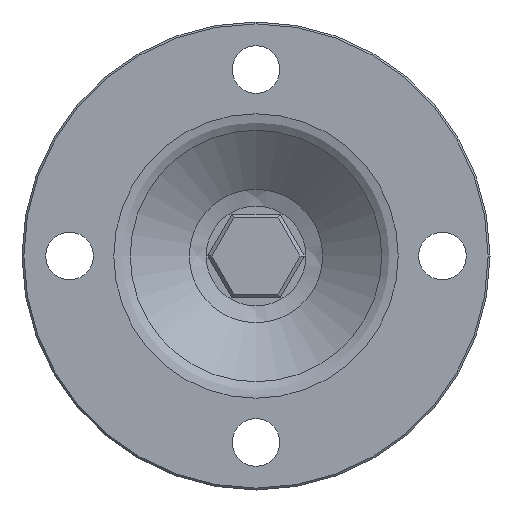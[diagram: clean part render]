
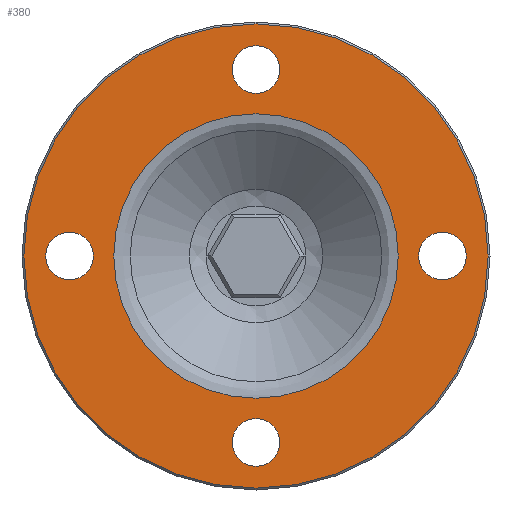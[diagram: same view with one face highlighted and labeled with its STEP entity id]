
A CAD part, left-side view. The second image highlights one B-rep face of the part: STEP entity #380.
In plain terms, the highlighted planar face has unit normal (-1, 0, 0).
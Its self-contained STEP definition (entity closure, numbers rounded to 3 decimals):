
#240=CARTESIAN_POINT('',(-445.277,-488.109,-43.814));
#241=VERTEX_POINT('',#240);
#249=CARTESIAN_POINT('',(-445.277,-488.109,30.932));
#250=VERTEX_POINT('',#249);
#251=CARTESIAN_POINT('',(-445.277,-488.109,-6.441));
#252=DIRECTION('',(-1.0,0.0,0.0));
#253=DIRECTION('',(0.0,0.0,-1.0));
#254=AXIS2_PLACEMENT_3D('',#251,#252,#253);
#255=CIRCLE('',#254,37.373);
#256=EDGE_CURVE('',#241,#250,#255,.T.);
#258=CARTESIAN_POINT('',(-445.277,-488.109,-6.441));
#259=DIRECTION('',(-1.0,0.0,0.0));
#260=DIRECTION('',(0.0,0.0,-1.0));
#261=AXIS2_PLACEMENT_3D('',#258,#259,#260);
#262=CIRCLE('',#261,37.373);
#263=EDGE_CURVE('',#250,#241,#262,.T.);
#271=CARTESIAN_POINT('',(-445.277,-366.109,115.559));
#272=DIRECTION('',(1.0,0.0,0.0));
#273=DIRECTION('',(0.0,-1.0,0.0));
#274=AXIS2_PLACEMENT_3D('',#271,#272,#273);
#275=PLANE('',#274);
#276=CARTESIAN_POINT('',(-445.277,-488.109,-67.441));
#277=VERTEX_POINT('',#276);
#278=CARTESIAN_POINT('',(-445.277,-488.109,54.559));
#279=VERTEX_POINT('',#278);
#280=CARTESIAN_POINT('',(-445.277,-488.109,-6.441));
#281=DIRECTION('',(-1.0,0.0,0.0));
#282=DIRECTION('',(0.0,0.0,-1.0));
#283=AXIS2_PLACEMENT_3D('',#280,#281,#282);
#284=CIRCLE('',#283,61.0);
#285=EDGE_CURVE('',#277,#279,#284,.T.);
#286=ORIENTED_EDGE('',*,*,#285,.T.);
#287=CARTESIAN_POINT('',(-445.277,-488.109,-6.441));
#288=DIRECTION('',(-1.0,0.0,0.0));
#289=DIRECTION('',(0.0,0.0,-1.0));
#290=AXIS2_PLACEMENT_3D('',#287,#288,#289);
#291=CIRCLE('',#290,61.0);
#292=EDGE_CURVE('',#279,#277,#291,.T.);
#293=ORIENTED_EDGE('',*,*,#292,.T.);
#294=EDGE_LOOP('',(#286,#293));
#295=FACE_OUTER_BOUND('',#294,.T.);
#296=ORIENTED_EDGE('',*,*,#263,.F.);
#297=ORIENTED_EDGE('',*,*,#256,.F.);
#298=EDGE_LOOP('',(#296,#297));
#299=FACE_BOUND('',#298,.T.);
#300=CARTESIAN_POINT('',(-445.277,-432.859,-6.441));
#301=VERTEX_POINT('',#300);
#302=CARTESIAN_POINT('',(-445.277,-445.359,-6.441));
#303=VERTEX_POINT('',#302);
#304=CARTESIAN_POINT('',(-445.277,-439.109,-6.441));
#305=DIRECTION('',(-1.0,0.0,0.0));
#306=DIRECTION('',(0.0,-1.0,0.0));
#307=AXIS2_PLACEMENT_3D('',#304,#305,#306);
#308=CIRCLE('',#307,6.25);
#309=EDGE_CURVE('',#301,#303,#308,.T.);
#310=ORIENTED_EDGE('',*,*,#309,.F.);
#311=CARTESIAN_POINT('',(-445.277,-439.109,-6.441));
#312=DIRECTION('',(-1.0,0.0,0.0));
#313=DIRECTION('',(0.0,-1.0,0.0));
#314=AXIS2_PLACEMENT_3D('',#311,#312,#313);
#315=CIRCLE('',#314,6.25);
#316=EDGE_CURVE('',#303,#301,#315,.T.);
#317=ORIENTED_EDGE('',*,*,#316,.F.);
#318=EDGE_LOOP('',(#310,#317));
#319=FACE_BOUND('',#318,.T.);
#320=CARTESIAN_POINT('',(-445.277,-481.859,42.559));
#321=VERTEX_POINT('',#320);
#322=CARTESIAN_POINT('',(-445.277,-494.359,42.559));
#323=VERTEX_POINT('',#322);
#324=CARTESIAN_POINT('',(-445.277,-488.109,42.559));
#325=DIRECTION('',(-1.0,0.0,0.0));
#326=DIRECTION('',(0.0,-1.0,0.0));
#327=AXIS2_PLACEMENT_3D('',#324,#325,#326);
#328=CIRCLE('',#327,6.25);
#329=EDGE_CURVE('',#321,#323,#328,.T.);
#330=ORIENTED_EDGE('',*,*,#329,.F.);
#331=CARTESIAN_POINT('',(-445.277,-488.109,42.559));
#332=DIRECTION('',(-1.0,0.0,0.0));
#333=DIRECTION('',(0.0,-1.0,0.0));
#334=AXIS2_PLACEMENT_3D('',#331,#332,#333);
#335=CIRCLE('',#334,6.25);
#336=EDGE_CURVE('',#323,#321,#335,.T.);
#337=ORIENTED_EDGE('',*,*,#336,.F.);
#338=EDGE_LOOP('',(#330,#337));
#339=FACE_BOUND('',#338,.T.);
#340=CARTESIAN_POINT('',(-445.277,-530.859,-6.441));
#341=VERTEX_POINT('',#340);
#342=CARTESIAN_POINT('',(-445.277,-543.359,-6.441));
#343=VERTEX_POINT('',#342);
#344=CARTESIAN_POINT('',(-445.277,-537.109,-6.441));
#345=DIRECTION('',(-1.0,0.0,0.0));
#346=DIRECTION('',(0.0,-1.0,0.0));
#347=AXIS2_PLACEMENT_3D('',#344,#345,#346);
#348=CIRCLE('',#347,6.25);
#349=EDGE_CURVE('',#341,#343,#348,.T.);
#350=ORIENTED_EDGE('',*,*,#349,.F.);
#351=CARTESIAN_POINT('',(-445.277,-537.109,-6.441));
#352=DIRECTION('',(-1.0,0.0,0.0));
#353=DIRECTION('',(0.0,-1.0,0.0));
#354=AXIS2_PLACEMENT_3D('',#351,#352,#353);
#355=CIRCLE('',#354,6.25);
#356=EDGE_CURVE('',#343,#341,#355,.T.);
#357=ORIENTED_EDGE('',*,*,#356,.F.);
#358=EDGE_LOOP('',(#350,#357));
#359=FACE_BOUND('',#358,.T.);
#360=CARTESIAN_POINT('',(-445.277,-481.859,-55.441));
#361=VERTEX_POINT('',#360);
#362=CARTESIAN_POINT('',(-445.277,-494.359,-55.441));
#363=VERTEX_POINT('',#362);
#364=CARTESIAN_POINT('',(-445.277,-488.109,-55.441));
#365=DIRECTION('',(-1.0,0.0,0.0));
#366=DIRECTION('',(0.0,-1.0,0.0));
#367=AXIS2_PLACEMENT_3D('',#364,#365,#366);
#368=CIRCLE('',#367,6.25);
#369=EDGE_CURVE('',#361,#363,#368,.T.);
#370=ORIENTED_EDGE('',*,*,#369,.F.);
#371=CARTESIAN_POINT('',(-445.277,-488.109,-55.441));
#372=DIRECTION('',(-1.0,0.0,0.0));
#373=DIRECTION('',(0.0,-1.0,0.0));
#374=AXIS2_PLACEMENT_3D('',#371,#372,#373);
#375=CIRCLE('',#374,6.25);
#376=EDGE_CURVE('',#363,#361,#375,.T.);
#377=ORIENTED_EDGE('',*,*,#376,.F.);
#378=EDGE_LOOP('',(#370,#377));
#379=FACE_BOUND('',#378,.T.);
#380=ADVANCED_FACE('',(#295,#299,#319,#339,#359,#379),#275,.F.);
